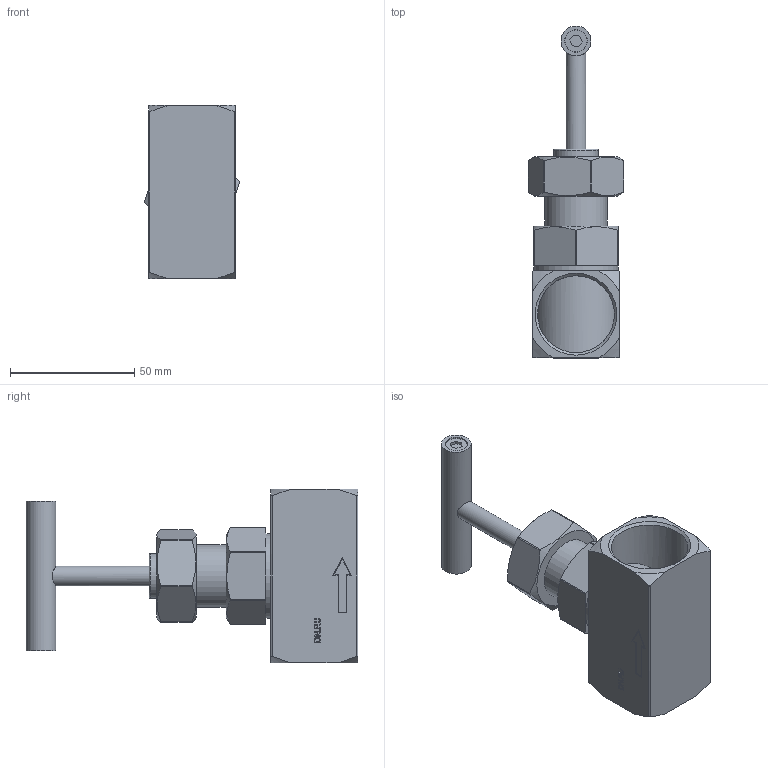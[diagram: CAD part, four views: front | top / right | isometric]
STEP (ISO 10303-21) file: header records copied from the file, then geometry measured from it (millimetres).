
FILE_DESCRIPTION(('STEP AP214'), '1');
FILE_NAME('VN3232M-T-Ht 孰囡囗 桡铍囹 DN.ru 捏25 畜400', '', ('UNSPECIFIED'), ('UNSPECIFIED'), 'C3D Converter', 'C3D Toolkit', '');
FILE_SCHEMA(('AUTOMOTIVE_DESIGN { 1 0 10303 214 3 1 1}'));
Length unit declared in the file: millimetre
Products named in the file (1): VN3232M-T-Ht
Bounding box: 38.29 x 133.5 x 70 mm (x, y, z)
Volume: 104218.5 mm3; surface area: 26202.9 mm2
Topology: 1 solids, 1 shells, 175 faces, 458 edges, 307 vertices
Faces by surface type: plane 109, cylinder 29, bspline 23, cone 13, torus 1
Full cylindrical faces by diameter (mm): 8 x1, 8.866 x2, 9.066 x2, 12 x1, 18 x1, 25 x1, 30.93 x2, 34 x1
Entity records: 12080 total; most frequent: CARTESIAN_POINT 6589, ORIENTED_EDGE 882, DIRECTION 668, EDGE_CURVE 441, VERTEX_POINT 307, LINE 266, VECTOR 266, EDGE_LOOP 214
